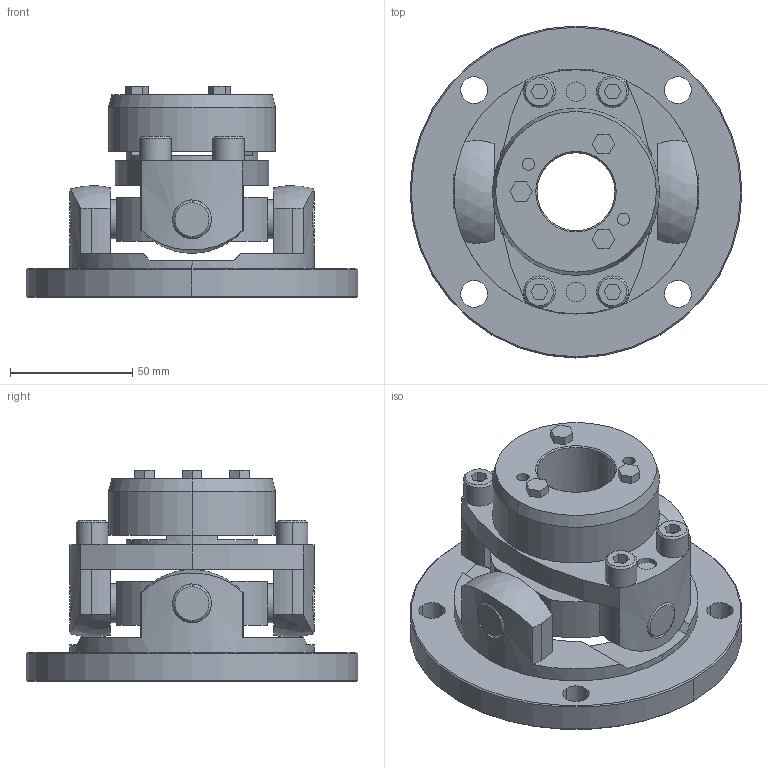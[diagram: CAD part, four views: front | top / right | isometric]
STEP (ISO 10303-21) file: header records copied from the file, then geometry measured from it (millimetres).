
FILE_DESCRIPTION((''),'2;1');
FILE_NAME('UCNF-100T7-32.stp','2011-09-17T16:45:18',(''),(''),'AutoCAD STEP 2000i','AutoCAD 2000i',', , ');
FILE_SCHEMA(('CONFIG_CONTROL_DESIGN'));
Length unit declared in the file: millimetre
Products named in the file (8): UCNF-100T7-30; 忣兜1; UCN100T7-T030; UCN100T7-T025; UCNF-10002; UCN100T7-T022-1; UCN100T7-T022; UCN100-SEN
Assembly tree (7 placements, depth 2):
  UCNF-100T7-30
    忣兜1
    UCN100T7-T030
    UCN100T7-T025
    UCNF-10002
    UCN100T7-T022-1
    UCN100T7-T022
    UCN100-SEN
Bounding box: 136 x 136 x 86.5 mm (x, y, z)
Volume: 377067.4 mm3; surface area: 85492.2 mm2
Topology: 1 solids, 1 shells, 275 faces, 688 edges, 448 vertices
Faces by surface type: plane 129, cylinder 104, cone 38, sphere 4
Entity records: 8891 total; most frequent: CARTESIAN_POINT 1823, DIRECTION 1536, ORIENTED_EDGE 1376, EDGE_CURVE 688, AXIS2_PLACEMENT_3D 581, VERTEX_POINT 448, VECTOR 374, LINE 374
